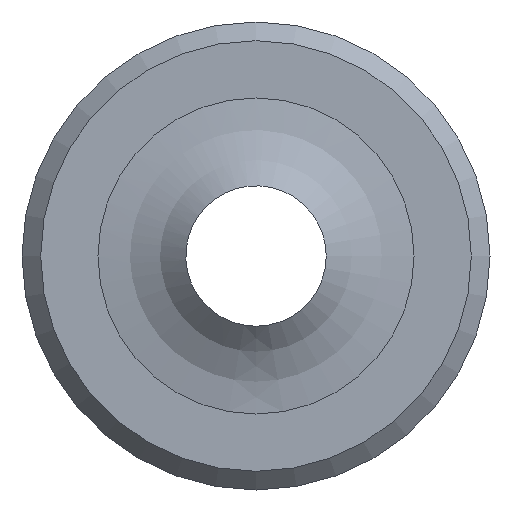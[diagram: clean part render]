
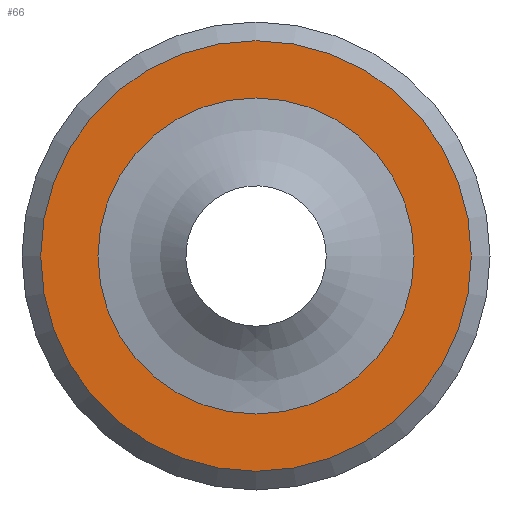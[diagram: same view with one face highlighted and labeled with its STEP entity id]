
A CAD part, front view. The second image highlights one B-rep face of the part: STEP entity #66.
In plain terms, the highlighted planar face has unit normal (0, -1, 0).
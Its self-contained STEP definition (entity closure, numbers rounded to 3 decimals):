
#66 = ADVANCED_FACE( '', ( #139, #140 ), #141, .T. );
#139 = FACE_OUTER_BOUND( '', #207, .T. );
#140 = FACE_BOUND( '', #208, .T. );
#141 = PLANE( '', #209 );
#207 = EDGE_LOOP( '', ( #311 ) );
#208 = EDGE_LOOP( '', ( #312 ) );
#209 = AXIS2_PLACEMENT_3D( '', #313, #314, #315 );
#311 = ORIENTED_EDGE( '', *, *, #367, .T. );
#312 = ORIENTED_EDGE( '', *, *, #347, .T. );
#313 = CARTESIAN_POINT( '', ( 0., 2., 0. ) );
#314 = DIRECTION( '', ( 0., -1., 0. ) );
#315 = DIRECTION( '', ( 0., 0., -1. ) );
#347 = EDGE_CURVE( '', #397, #397, #398, .F. );
#367 = EDGE_CURVE( '', #425, #425, #426, .T. );
#397 = VERTEX_POINT( '', #495 );
#398 = CIRCLE( '', #496, 8.44 );
#425 = VERTEX_POINT( '', #595 );
#426 = CIRCLE( '', #596, 11.5 );
#495 = CARTESIAN_POINT( '', ( 0., 2., -8.44 ) );
#496 = AXIS2_PLACEMENT_3D( '', #623, #624, #625 );
#595 = CARTESIAN_POINT( '', ( 0., 2., -11.5 ) );
#596 = AXIS2_PLACEMENT_3D( '', #643, #644, #645 );
#623 = CARTESIAN_POINT( '', ( 0., 2., 0. ) );
#624 = DIRECTION( '', ( 0., -1., 0. ) );
#625 = DIRECTION( '', ( 0., 0., -1. ) );
#643 = CARTESIAN_POINT( '', ( 0., 2., 0. ) );
#644 = DIRECTION( '', ( 0., -1., 0. ) );
#645 = DIRECTION( '', ( 0., 0., -1. ) );
